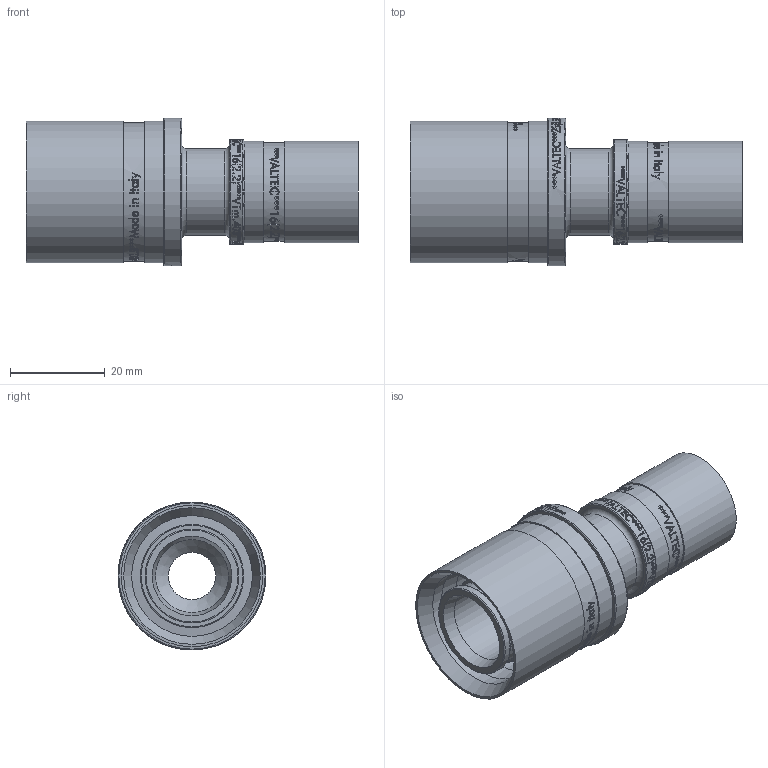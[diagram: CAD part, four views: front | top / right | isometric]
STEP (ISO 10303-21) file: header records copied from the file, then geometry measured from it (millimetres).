
FILE_DESCRIPTION(/* description */ (''),/* implementation_level */ '2;1');
FILE_NAME(/* name */ 'F:\Артём\00000\Работа удаленка\Аксеальные фитинги\VTm.403.BG.002516.stp',/* time_stamp */ '2021-01-25T16:14:06+03:00',/* author */ ('almis'),/* organization */ (''),/* preprocessor_version */ 'ST-DEVELOPER v18',/* originating_system */ 'Autodesk Inventor 2020',/* authorisation */ '');
FILE_SCHEMA (('AUTOMOTIVE_DESIGN { 1 0 10303 214 3 1 1 }'));
Length unit declared in the file: millimetre
Products named in the file (1): VTm.403.BG.002520
Bounding box: 70.02 x 31.2 x 31.2 mm (x, y, z)
Volume: 16324.5 mm3; surface area: 16071.9 mm2
Topology: 1 solids, 1 shells, 2494 faces, 6850 edges, 4592 vertices
Faces by surface type: bspline 1387, plane 795, cylinder 253, torus 45, cone 14
Full cylindrical faces by diameter (mm): 10 x1, 12.8 x5, 13.4 x4, 15 x1, 15.4 x1, 16.9 x2, 18.3 x6, 19.8 x4, 20.8 x1, 21.4 x2, 21.8 x1, 22 x1, 25.5 x2, 29.3 x1, 29.85 x2, 31.2 x1
Entity records: 104863 total; most frequent: CARTESIAN_POINT 49811, ORIENTED_EDGE 13700, DIRECTION 7391, EDGE_CURVE 6850, VERTEX_POINT 4592, LINE 2961, VECTOR 2961, B_SPLINE_CURVE_WITH_KNOTS 2782
